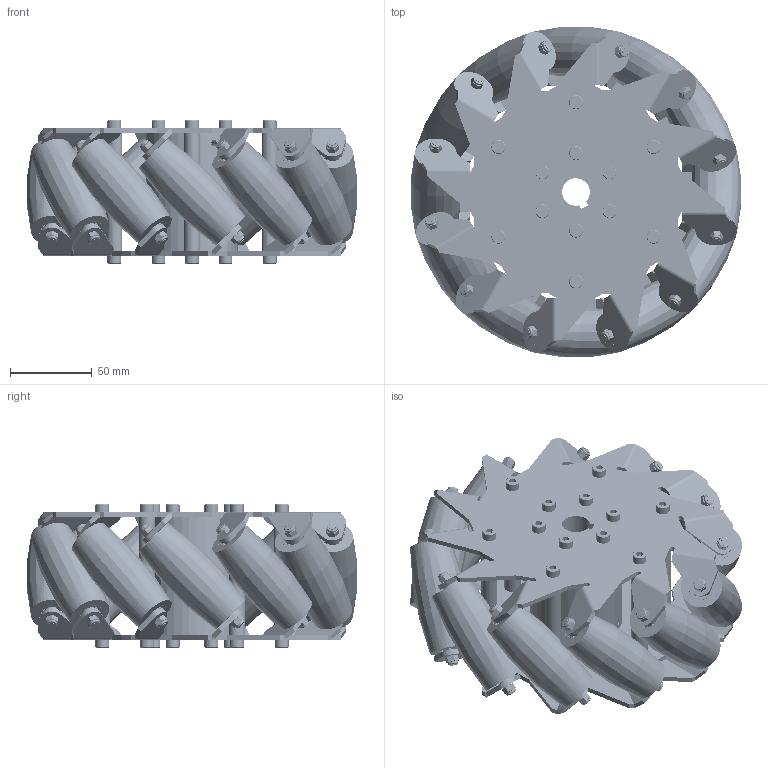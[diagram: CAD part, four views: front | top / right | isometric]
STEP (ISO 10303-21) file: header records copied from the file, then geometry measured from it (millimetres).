
FILE_DESCRIPTION(('Open CASCADE Model'),'2;1');
FILE_NAME('Open CASCADE Shape Model','2026-10-14T14:23:53',('Author'),( 'Open CASCADE'),'Open CASCADE STEP processor 7.7','Open CASCADE 7.7' ,'Unknown');
FILE_SCHEMA(('AUTOMOTIVE_DESIGN { 1 0 10303 214 1 1 1 1 }'));
Length unit declared in the file: millimetre
Products named in the file (24): Open CASCADE STEP translator 7.7 1; Open CASCADE STEP translator 7.7 1.1; Open CASCADE STEP translator 7.7 1.2; Open CASCADE STEP translator 7.7 1.3; Open CASCADE STEP translator 7.7 1.15; Open CASCADE STEP translator 7.7 1.29; Open CASCADE STEP translator 7.7 1.30; Open CASCADE STEP translator 7.7 1.31; Open CASCADE STEP translator 7.7 1.32; Open CASCADE STEP translator 7.7 1.33; Open CASCADE STEP translator 7.7 1.34; Open CASCADE STEP translator 7.7 1.35; Open CASCADE STEP translator 7.7 1.36; Open CASCADE STEP translator 7.7 1.37; Open CASCADE STEP translator 7.7 1.38; Open CASCADE STEP translator 7.7 1.39; Open CASCADE STEP translator 7.7 1.40; Open CASCADE STEP translator 7.7 1.41; Open CASCADE STEP translator 7.7 1.42; Open CASCADE STEP translator 7.7 1.43; Open CASCADE STEP translator 7.7 1.44; Open CASCADE STEP translator 7.7 1.45; Open CASCADE STEP translator 7.7 1.56; Open CASCADE STEP translator 7.7 1.58
Assembly tree (345 placements, depth 2):
  Open CASCADE STEP translator 7.7 1
    Open CASCADE STEP translator 7.7 1.1
    Open CASCADE STEP translator 7.7 1.2  x2
    Open CASCADE STEP translator 7.7 1.3  x24
    Open CASCADE STEP translator 7.7 1.15
    Open CASCADE STEP translator 7.7 1.29
    Open CASCADE STEP translator 7.7 1.30
    Open CASCADE STEP translator 7.7 1.31
    Open CASCADE STEP translator 7.7 1.32
    Open CASCADE STEP translator 7.7 1.33
    Open CASCADE STEP translator 7.7 1.34  x12
    Open CASCADE STEP translator 7.7 1.35  x24
    Open CASCADE STEP translator 7.7 1.36  x24
    Open CASCADE STEP translator 7.7 1.37  x24
    Open CASCADE STEP translator 7.7 1.38  x24
    Open CASCADE STEP translator 7.7 1.39  x24
    Open CASCADE STEP translator 7.7 1.40  x24
    Open CASCADE STEP translator 7.7 1.41  x24
    Open CASCADE STEP translator 7.7 1.42  x24
    Open CASCADE STEP translator 7.7 1.43  x24
    Open CASCADE STEP translator 7.7 1.44  x24
    Open CASCADE STEP translator 7.7 1.45  x12
    Open CASCADE STEP translator 7.7 1.56  x24
    Open CASCADE STEP translator 7.7 1.58  x24
Bounding box: 202.11 x 202.11 x 88 mm (x, y, z)
Volume: 854608.5 mm3; surface area: 313675.5 mm2
Topology: 345 solids, 345 shells, 3392 faces, 7860 edges, 4888 vertices
Faces by surface type: cylinder 1068, plane 1028, torus 576, sphere 384, cone 288, bspline 24, revolution 24
Entity records: 38518 total; most frequent: CARTESIAN_POINT 9134, DIRECTION 5863, LINE 2675, VECTOR 2675, ORIENTED_EDGE 2604, PCURVE 2604, DEFINITIONAL_REPRESENTATION 2604, AXIS2_PLACEMENT_3D 1460
